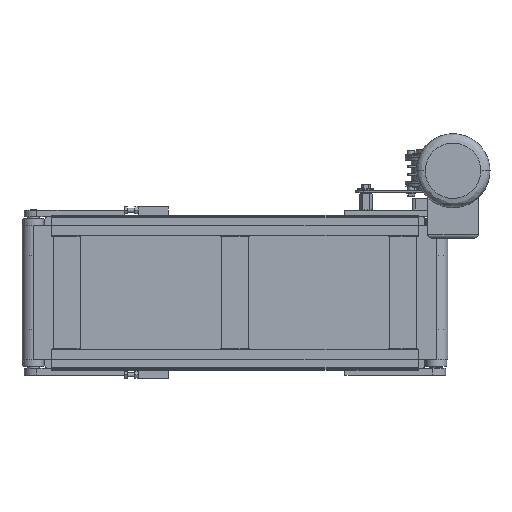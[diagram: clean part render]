
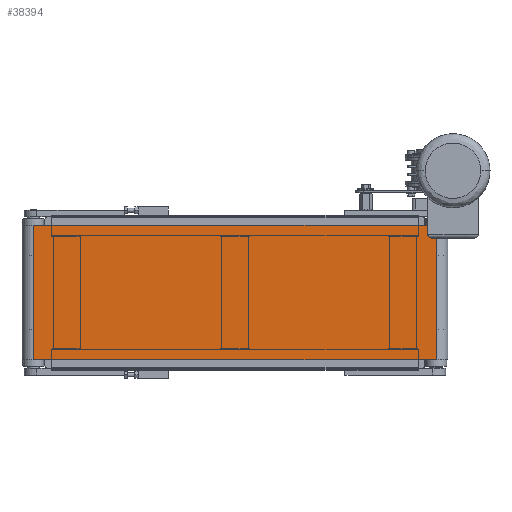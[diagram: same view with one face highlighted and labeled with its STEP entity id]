
A CAD part, front view. The second image highlights one B-rep face of the part: STEP entity #38394.
In plain terms, the highlighted planar face has unit normal (0, -1, 0).
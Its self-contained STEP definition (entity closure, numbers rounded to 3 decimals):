
#13 = LINE ( 'NONE', #13691, #24472 ) ;
#2857 = CARTESIAN_POINT ( 'NONE',  ( 300., -17., -100. ) ) ;
#4204 = DIRECTION ( 'NONE',  ( 1., 0., 0. ) ) ;
#5979 = PLANE ( 'NONE',  #17569 ) ;
#7930 = ORIENTED_EDGE ( 'NONE', *, *, #31902, .F. ) ;
#8060 = VERTEX_POINT ( 'NONE', #31434 ) ;
#9387 = VERTEX_POINT ( 'NONE', #32115 ) ;
#9537 = FACE_OUTER_BOUND ( 'NONE', #23918, .T. ) ;
#10311 = EDGE_CURVE ( 'NONE', #9387, #8060, #20806, .T. ) ;
#10339 = ORIENTED_EDGE ( 'NONE', *, *, #10311, .T. ) ;
#13691 = CARTESIAN_POINT ( 'NONE',  ( 300., -17., 100. ) ) ;
#15502 = VECTOR ( 'NONE', #31567, 1000. ) ;
#16025 = ORIENTED_EDGE ( 'NONE', *, *, #30621, .F. ) ;
#16162 = DIRECTION ( 'NONE',  ( 1., 0., 0. ) ) ;
#17569 = AXIS2_PLACEMENT_3D ( 'NONE', #33751, #19613, #30160 ) ;
#19613 = DIRECTION ( 'NONE',  ( 0., 1., 0. ) ) ;
#20127 = ORIENTED_EDGE ( 'NONE', *, *, #39429, .T. ) ;
#20806 = LINE ( 'NONE', #27539, #15502 ) ;
#21450 = LINE ( 'NONE', #34688, #43412 ) ;
#22231 = CARTESIAN_POINT ( 'NONE',  ( 300., -17., 100. ) ) ;
#22675 = CARTESIAN_POINT ( 'NONE',  ( -300., -17., 100. ) ) ;
#23770 = DIRECTION ( 'NONE',  ( 0., 0., -1. ) ) ;
#23918 = EDGE_LOOP ( 'NONE', ( #20127, #7930, #16025, #10339 ) ) ;
#24472 = VECTOR ( 'NONE', #23770, 1000. ) ;
#25541 = VERTEX_POINT ( 'NONE', #2857 ) ;
#26056 = LINE ( 'NONE', #22675, #40829 ) ;
#27539 = CARTESIAN_POINT ( 'NONE',  ( -300., -17., 100. ) ) ;
#30160 = DIRECTION ( 'NONE',  ( 0., 0., 1. ) ) ;
#30621 = EDGE_CURVE ( 'NONE', #9387, #37361, #26056, .T. ) ;
#31434 = CARTESIAN_POINT ( 'NONE',  ( -300., -17., -100. ) ) ;
#31567 = DIRECTION ( 'NONE',  ( 0., 0., -1. ) ) ;
#31902 = EDGE_CURVE ( 'NONE', #37361, #25541, #13, .T. ) ;
#32115 = CARTESIAN_POINT ( 'NONE',  ( -300., -17., 100. ) ) ;
#33751 = CARTESIAN_POINT ( 'NONE',  ( -300., -17., 100. ) ) ;
#34688 = CARTESIAN_POINT ( 'NONE',  ( -300., -17., -100. ) ) ;
#37361 = VERTEX_POINT ( 'NONE', #22231 ) ;
#38394 = ADVANCED_FACE ( 'NONE', ( #9537 ), #5979, .F. ) ;
#39429 = EDGE_CURVE ( 'NONE', #8060, #25541, #21450, .T. ) ;
#40829 = VECTOR ( 'NONE', #16162, 1000. ) ;
#43412 = VECTOR ( 'NONE', #4204, 1000. ) ;
